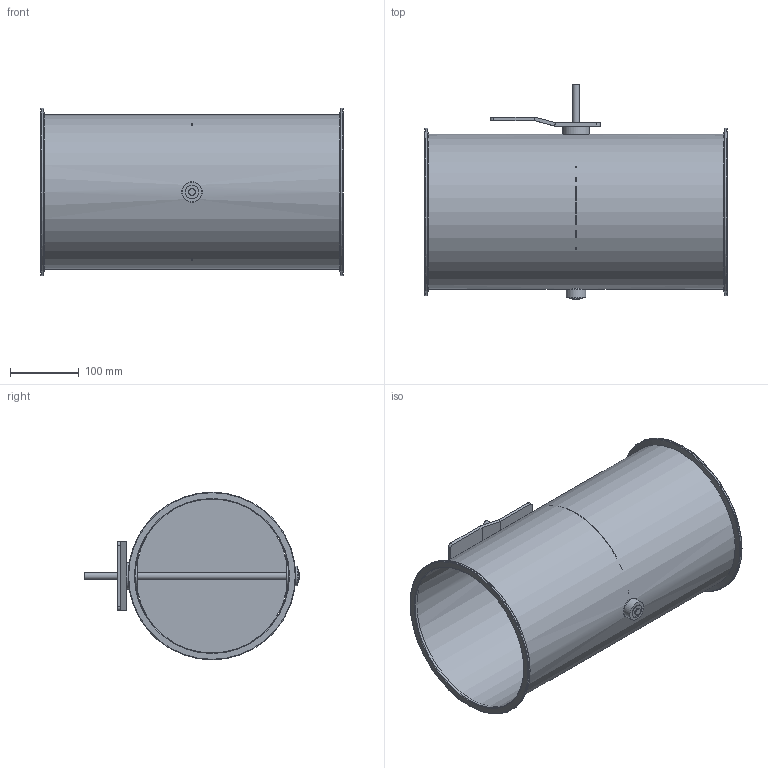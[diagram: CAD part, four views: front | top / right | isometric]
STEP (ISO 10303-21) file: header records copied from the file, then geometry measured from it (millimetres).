
FILE_DESCRIPTION(/* description */ (''),/* implementation_level */ '2;1');
FILE_NAME(/* name */ 'EA102-80B__224_L440_Belimo_Typ_SM.stp',/* time_stamp */ '2017-12-06T14:46:38+01:00',/* author */ (''),/* organization */ (''),/* preprocessor_version */ 'ST-DEVELOPER v11',/* originating_system */ 'SIEMENS UGS NX 6.0',/* authorisation */ '');
FILE_SCHEMA (('CONFIG_CONTROL_DESIGN'));
Length unit declared in the file: millimetre
Products named in the file (1): gars18E2j28m
Bounding box: 440 x 314 x 244 mm (x, y, z)
Volume: 478659.7 mm3; surface area: 781523.9 mm2
Topology: 8 solids, 8 shells, 76 faces, 158 edges, 100 vertices
Faces by surface type: plane 36, cylinder 32, torus 6, cone 2
Full cylindrical faces by diameter (mm): 4.1 x4, 10 x3, 19 x3, 19.85 x2, 20 x2, 29 x1, 30 x2, 39 x1, 224 x1, 225.6 x1, 244 x2
Entity records: 1960 total; most frequent: CARTESIAN_POINT 353, DIRECTION 334, ORIENTED_EDGE 236, AXIS2_PLACEMENT_3D 143, EDGE_LOOP 132, EDGE_CURVE 118, FACE_BOUND 102, VERTEX_POINT 90
